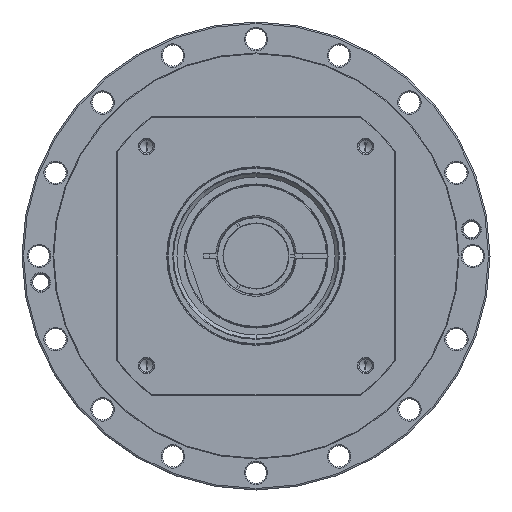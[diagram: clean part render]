
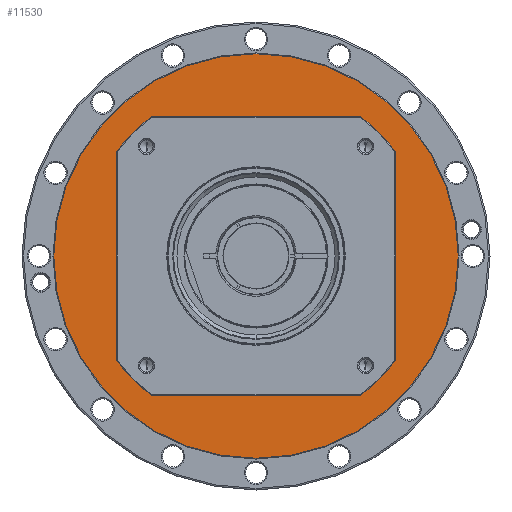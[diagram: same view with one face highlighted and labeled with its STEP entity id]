
A CAD part, left-side view. The second image highlights one B-rep face of the part: STEP entity #11530.
In plain terms, the highlighted planar face has unit normal (-1, 0, 0) as drawn and (1, 0, 0) by its records, which use the part's own axes.
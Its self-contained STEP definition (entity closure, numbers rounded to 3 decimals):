
#10561=CARTESIAN_POINT('',(-3.5,0.,0.));
#10562=DIRECTION('',(-1.,0.,0.));
#10563=DIRECTION('',(0.,-1.,0.));
#10564=AXIS2_PLACEMENT_3D('',#10561,#10562,#10563);
#10566=CARTESIAN_POINT('',(-3.5,0.,0.));
#10567=DIRECTION('',(-1.,0.,0.));
#10568=DIRECTION('',(0.,1.,0.));
#10569=AXIS2_PLACEMENT_3D('',#10566,#10567,#10568);
#10571=CARTESIAN_POINT('',(-3.5,0.,0.));
#10572=DIRECTION('',(-1.,0.,0.));
#10573=DIRECTION('',(0.,-1.,0.));
#10574=AXIS2_PLACEMENT_3D('',#10571,#10572,#10573);
#10576=CARTESIAN_POINT('',(-3.5,0.,0.));
#10577=DIRECTION('',(-1.,0.,0.));
#10578=DIRECTION('',(0.,1.,0.));
#10579=AXIS2_PLACEMENT_3D('',#10576,#10577,#10578);
#10823=CARTESIAN_POINT('',(-3.5,-130.5,0.));
#10824=CARTESIAN_POINT('',(-3.5,130.5,0.));
#10825=VERTEX_POINT('',#10823);
#10826=VERTEX_POINT('',#10824);
#10881=CARTESIAN_POINT('',(-3.5,-74.5,0.));
#10882=CARTESIAN_POINT('',(-3.5,74.5,0.));
#10883=VERTEX_POINT('',#10881);
#10884=VERTEX_POINT('',#10882);
#11515=CARTESIAN_POINT('',(-3.5,0.,0.));
#11516=DIRECTION('',(1.,0.,0.));
#11517=DIRECTION('',(0.,-1.,0.));
#11518=AXIS2_PLACEMENT_3D('',#11515,#11516,#11517);
#11519=PLANE('',#11518);
#11520=ORIENTED_EDGE('',*,*,#11471,.T.);
#11521=ORIENTED_EDGE('',*,*,#11456,.T.);
#11522=EDGE_LOOP('',(#11520,#11521));
#11523=FACE_OUTER_BOUND('',#11522,.F.);
#11525=ORIENTED_EDGE('',*,*,#11524,.F.);
#11527=ORIENTED_EDGE('',*,*,#11526,.F.);
#11528=EDGE_LOOP('',(#11525,#11527));
#11529=FACE_BOUND('',#11528,.F.);
#11530=ADVANCED_FACE('',(#11523,#11529),#11519,.T.);
#10565=CIRCLE('',#10564,74.5);
#10570=CIRCLE('',#10569,74.5);
#10575=CIRCLE('',#10574,130.5);
#10580=CIRCLE('',#10579,130.5);
#11456=EDGE_CURVE('',#10826,#10825,#10580,.T.);
#11471=EDGE_CURVE('',#10825,#10826,#10575,.T.);
#11524=EDGE_CURVE('',#10883,#10884,#10565,.T.);
#11526=EDGE_CURVE('',#10884,#10883,#10570,.T.);
